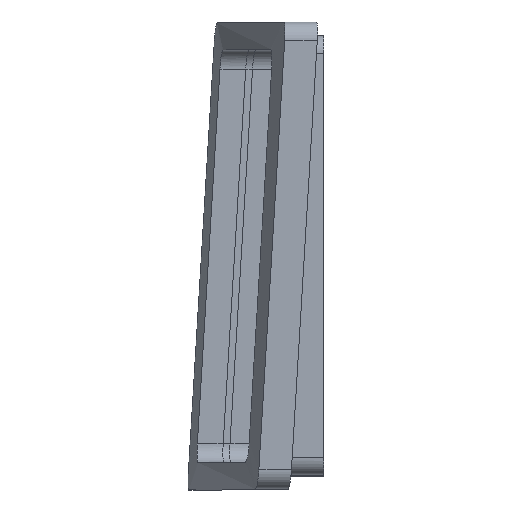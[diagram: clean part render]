
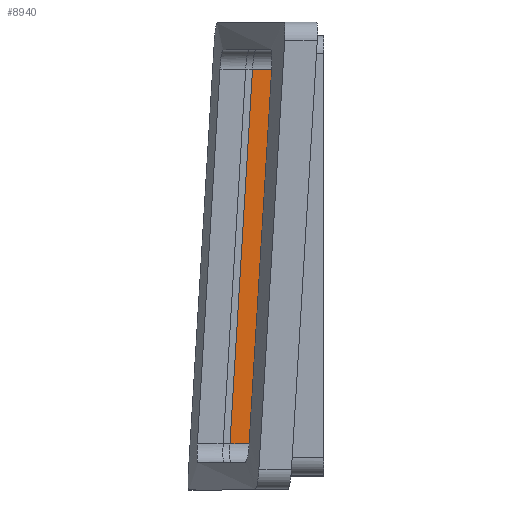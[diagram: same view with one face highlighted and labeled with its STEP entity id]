
A CAD part, top view. The second image highlights one B-rep face of the part: STEP entity #8940.
In plain terms, the highlighted planar face has unit normal (0, 0, 1).
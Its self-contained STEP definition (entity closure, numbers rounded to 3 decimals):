
#5765 = PLANE('',#5766);
#5766 = AXIS2_PLACEMENT_3D('',#5767,#5768,#5769);
#5767 = CARTESIAN_POINT('',(-5.,93.6,39.4));
#5768 = DIRECTION('',(0.,0.,1.));
#5769 = DIRECTION('',(0.,1.,0.));
#7083 = VERTEX_POINT('',#7084);
#7084 = CARTESIAN_POINT('',(5.412,108.1,39.4));
#7165 = CYLINDRICAL_SURFACE('',#7166,0.7);
#7166 = AXIS2_PLACEMENT_3D('',#7167,#7168,#7169);
#7167 = CARTESIAN_POINT('',(-5.,108.1,40.1));
#7168 = DIRECTION('',(1.,0.,0.));
#7169 = DIRECTION('',(0.,0.,-1.));
#8014 = VERTEX_POINT('',#8015);
#8015 = CARTESIAN_POINT('',(4.582,94.3,39.4));
#8076 = CYLINDRICAL_SURFACE('',#8077,0.7);
#8077 = AXIS2_PLACEMENT_3D('',#8078,#8079,#8080);
#8078 = CARTESIAN_POINT('',(-5.,94.3,40.1));
#8079 = DIRECTION('',(1.,0.,0.));
#8080 = DIRECTION('',(0.,0.,-1.));
#8152 = EDGE_CURVE('',#7083,#8014,#8153,.T.);
#8153 = SURFACE_CURVE('',#8154,(#8160,#8169),.PCURVE_S1.);
#8154 = B_SPLINE_CURVE_WITH_KNOTS('',4,(#8155,#8156,#8157,#8158,#8159),
  .UNSPECIFIED.,.F.,.F.,(5,5),(0.,1.),.PIECEWISE_BEZIER_KNOTS.);
#8155 = CARTESIAN_POINT('',(5.412,108.1,39.4));
#8156 = CARTESIAN_POINT('',(5.19,104.65,39.4));
#8157 = CARTESIAN_POINT('',(4.978,101.201,39.4));
#8158 = CARTESIAN_POINT('',(4.775,97.75,39.4));
#8159 = CARTESIAN_POINT('',(4.582,94.3,39.4));
#8160 = PCURVE('',#5765,#8161);
#8161 = DEFINITIONAL_REPRESENTATION('',(#8162),#8168);
#8162 = B_SPLINE_CURVE_WITH_KNOTS('',4,(#8163,#8164,#8165,#8166,#8167),
  .UNSPECIFIED.,.F.,.F.,(5,5),(0.,1.),.PIECEWISE_BEZIER_KNOTS.);
#8163 = CARTESIAN_POINT('',(14.5,-10.412));
#8164 = CARTESIAN_POINT('',(11.05,-10.19));
#8165 = CARTESIAN_POINT('',(7.601,-9.978));
#8166 = CARTESIAN_POINT('',(4.15,-9.775));
#8167 = CARTESIAN_POINT('',(0.7,-9.582));
#8168 = ( GEOMETRIC_REPRESENTATION_CONTEXT(2) 
PARAMETRIC_REPRESENTATION_CONTEXT() REPRESENTATION_CONTEXT('2D SPACE',''
  ) );
#8169 = PCURVE('',#8170,#8175);
#8170 = PLANE('',#8171);
#8171 = AXIS2_PLACEMENT_3D('',#8172,#8173,#8174);
#8172 = CARTESIAN_POINT('',(-5.,93.6,39.4));
#8173 = DIRECTION('',(0.,0.,1.));
#8174 = DIRECTION('',(0.,1.,0.));
#8175 = DEFINITIONAL_REPRESENTATION('',(#8176),#8182);
#8176 = B_SPLINE_CURVE_WITH_KNOTS('',4,(#8177,#8178,#8179,#8180,#8181),
  .UNSPECIFIED.,.F.,.F.,(5,5),(0.,1.),.PIECEWISE_BEZIER_KNOTS.);
#8177 = CARTESIAN_POINT('',(14.5,-10.412));
#8178 = CARTESIAN_POINT('',(11.05,-10.19));
#8179 = CARTESIAN_POINT('',(7.601,-9.978));
#8180 = CARTESIAN_POINT('',(4.15,-9.775));
#8181 = CARTESIAN_POINT('',(0.7,-9.582));
#8182 = ( GEOMETRIC_REPRESENTATION_CONTEXT(2) 
PARAMETRIC_REPRESENTATION_CONTEXT() REPRESENTATION_CONTEXT('2D SPACE',''
  ) );
#8249 = PLANE('',#8250);
#8250 = AXIS2_PLACEMENT_3D('',#8251,#8252,#8253);
#8251 = CARTESIAN_POINT('',(8.041,91.6,35.1));
#8252 = DIRECTION('',(1.,0.,-0.));
#8253 = DIRECTION('',(0.,0.,1.));
#8580 = EDGE_CURVE('',#7083,#8581,#8583,.T.);
#8581 = VERTEX_POINT('',#8582);
#8582 = CARTESIAN_POINT('',(8.041,108.1,39.4));
#8583 = SURFACE_CURVE('',#8584,(#8588,#8595),.PCURVE_S1.);
#8584 = LINE('',#8585,#8586);
#8585 = CARTESIAN_POINT('',(-5.,108.1,39.4));
#8586 = VECTOR('',#8587,1.);
#8587 = DIRECTION('',(1.,0.,0.));
#8588 = PCURVE('',#7165,#8589);
#8589 = DEFINITIONAL_REPRESENTATION('',(#8590),#8594);
#8590 = LINE('',#8591,#8592);
#8591 = CARTESIAN_POINT('',(0.,0.));
#8592 = VECTOR('',#8593,1.);
#8593 = DIRECTION('',(0.,1.));
#8594 = ( GEOMETRIC_REPRESENTATION_CONTEXT(2) 
PARAMETRIC_REPRESENTATION_CONTEXT() REPRESENTATION_CONTEXT('2D SPACE',''
  ) );
#8595 = PCURVE('',#8170,#8596);
#8596 = DEFINITIONAL_REPRESENTATION('',(#8597),#8601);
#8597 = LINE('',#8598,#8599);
#8598 = CARTESIAN_POINT('',(14.5,0.));
#8599 = VECTOR('',#8600,1.);
#8600 = DIRECTION('',(0.,-1.));
#8601 = ( GEOMETRIC_REPRESENTATION_CONTEXT(2) 
PARAMETRIC_REPRESENTATION_CONTEXT() REPRESENTATION_CONTEXT('2D SPACE',''
  ) );
#8893 = EDGE_CURVE('',#8014,#8894,#8896,.T.);
#8894 = VERTEX_POINT('',#8895);
#8895 = CARTESIAN_POINT('',(8.041,94.3,39.4));
#8896 = SURFACE_CURVE('',#8897,(#8901,#8908),.PCURVE_S1.);
#8897 = LINE('',#8898,#8899);
#8898 = CARTESIAN_POINT('',(-5.,94.3,39.4));
#8899 = VECTOR('',#8900,1.);
#8900 = DIRECTION('',(1.,0.,0.));
#8901 = PCURVE('',#8076,#8902);
#8902 = DEFINITIONAL_REPRESENTATION('',(#8903),#8907);
#8903 = LINE('',#8904,#8905);
#8904 = CARTESIAN_POINT('',(-0.,0.));
#8905 = VECTOR('',#8906,1.);
#8906 = DIRECTION('',(-0.,1.));
#8907 = ( GEOMETRIC_REPRESENTATION_CONTEXT(2) 
PARAMETRIC_REPRESENTATION_CONTEXT() REPRESENTATION_CONTEXT('2D SPACE',''
  ) );
#8908 = PCURVE('',#8170,#8909);
#8909 = DEFINITIONAL_REPRESENTATION('',(#8910),#8914);
#8910 = LINE('',#8911,#8912);
#8911 = CARTESIAN_POINT('',(0.7,0.));
#8912 = VECTOR('',#8913,1.);
#8913 = DIRECTION('',(0.,-1.));
#8914 = ( GEOMETRIC_REPRESENTATION_CONTEXT(2) 
PARAMETRIC_REPRESENTATION_CONTEXT() REPRESENTATION_CONTEXT('2D SPACE',''
  ) );
#8940 = ADVANCED_FACE('',(#8941),#8170,.T.);
#8941 = FACE_BOUND('',#8942,.T.);
#8942 = EDGE_LOOP('',(#8943,#8944,#8945,#8946));
#8943 = ORIENTED_EDGE('',*,*,#8580,.F.);
#8944 = ORIENTED_EDGE('',*,*,#8152,.T.);
#8945 = ORIENTED_EDGE('',*,*,#8893,.T.);
#8946 = ORIENTED_EDGE('',*,*,#8947,.T.);
#8947 = EDGE_CURVE('',#8894,#8581,#8948,.T.);
#8948 = SURFACE_CURVE('',#8949,(#8953,#8959),.PCURVE_S1.);
#8949 = LINE('',#8950,#8951);
#8950 = CARTESIAN_POINT('',(8.041,92.6,39.4));
#8951 = VECTOR('',#8952,1.);
#8952 = DIRECTION('',(-0.,1.,0.));
#8953 = PCURVE('',#8170,#8954);
#8954 = DEFINITIONAL_REPRESENTATION('',(#8955),#8958);
#8955 = B_SPLINE_CURVE_WITH_KNOTS('',1,(#8956,#8957),.UNSPECIFIED.,.F.,
  .F.,(2,2),(1.7,15.5),.PIECEWISE_BEZIER_KNOTS.);
#8956 = CARTESIAN_POINT('',(0.7,-13.041));
#8957 = CARTESIAN_POINT('',(14.5,-13.041));
#8958 = ( GEOMETRIC_REPRESENTATION_CONTEXT(2) 
PARAMETRIC_REPRESENTATION_CONTEXT() REPRESENTATION_CONTEXT('2D SPACE',''
  ) );
#8959 = PCURVE('',#8249,#8960);
#8960 = DEFINITIONAL_REPRESENTATION('',(#8961),#8964);
#8961 = B_SPLINE_CURVE_WITH_KNOTS('',1,(#8962,#8963),.UNSPECIFIED.,.F.,
  .F.,(2,2),(1.7,15.5),.PIECEWISE_BEZIER_KNOTS.);
#8962 = CARTESIAN_POINT('',(4.3,-2.7));
#8963 = CARTESIAN_POINT('',(4.3,-16.5));
#8964 = ( GEOMETRIC_REPRESENTATION_CONTEXT(2) 
PARAMETRIC_REPRESENTATION_CONTEXT() REPRESENTATION_CONTEXT('2D SPACE',''
  ) );
